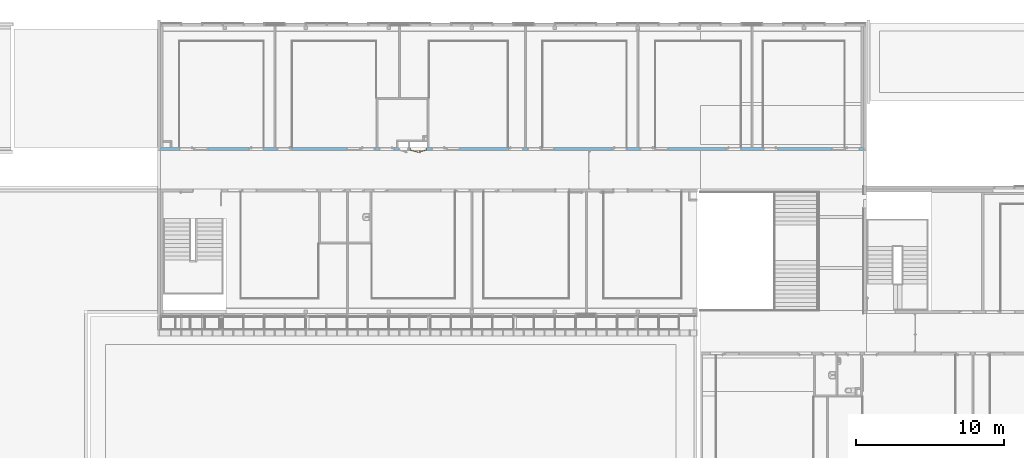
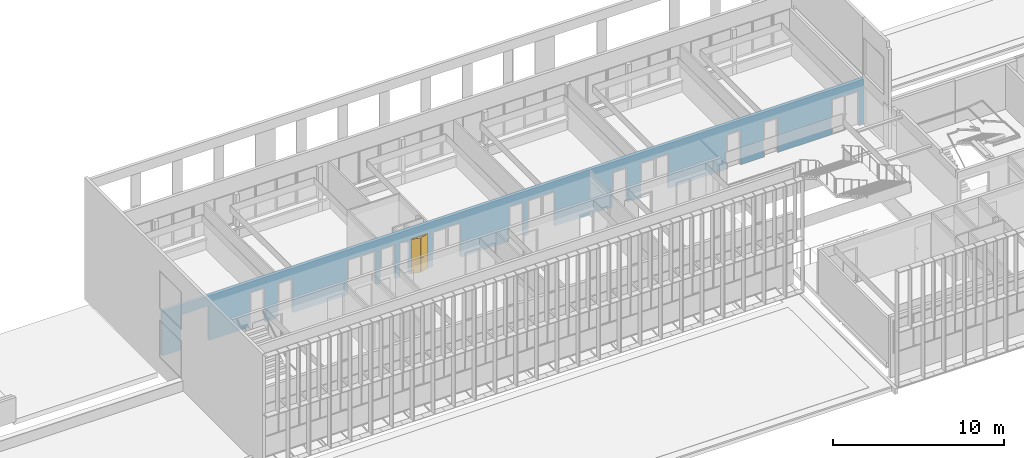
# One storey, part 96 of 106: 1 door, 21 openings, plus 1 element that does not belong to this part.
"""IFC2X3 building model written with IfcOpenShell, lengths in centimetres."""

from ifc_helpers import new_model, entity, si_unit, converted_unit, derived_unit, direction, frame, frame_2d, origin, place, context, subcontext, project, spatial, polyline, rectangle, extrude, clip, bounded_halfspace, faceted_brep, source, transform, mapped, material, material_list, layer, layer_set, layer_usage, type_object, type_shapes, element, fill, save


model = new_model("IFC2X3")

# Units and contexts
model_context = context("Model", 3, precision=0.001, world=origin(), true_north=direction((6.12303176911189e-17, 1.0)))
body_context = subcontext(model_context, "Body", "Model", "MODEL_VIEW")
ifc_project = project(units=[si_unit("LENGTHUNIT", "METRE", prefix="CENTI"), si_unit("AREAUNIT", "SQUARE_METRE"), si_unit("VOLUMEUNIT", "CUBIC_METRE"), converted_unit("PLANEANGLEUNIT", "DEGREE", entity("IfcRatioMeasure", 0.0174532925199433), si_unit("PLANEANGLEUNIT", "RADIAN"), dimensions=[0, 0, 0, 0, 0, 0, 0]), si_unit("MASSUNIT", "GRAM", prefix="KILO"), derived_unit("MASSDENSITYUNIT", [(si_unit("MASSUNIT", "GRAM", prefix="KILO"), 1), (si_unit("LENGTHUNIT", "METRE"), -3)]), si_unit("TIMEUNIT", "SECOND"), si_unit("FREQUENCYUNIT", "HERTZ"), si_unit("THERMODYNAMICTEMPERATUREUNIT", "DEGREE_CELSIUS"), derived_unit("THERMALTRANSMITTANCEUNIT", [(si_unit("MASSUNIT", "GRAM", prefix="KILO"), 1), (si_unit("THERMODYNAMICTEMPERATUREUNIT", "KELVIN"), -1), (si_unit("TIMEUNIT", "SECOND"), -3)]), derived_unit("VOLUMETRICFLOWRATEUNIT", [(si_unit("LENGTHUNIT", "METRE"), 3), (si_unit("TIMEUNIT", "SECOND"), -1)]), si_unit("ELECTRICCURRENTUNIT", "AMPERE"), si_unit("ELECTRICVOLTAGEUNIT", "VOLT"), si_unit("POWERUNIT", "WATT"), si_unit("FORCEUNIT", "NEWTON", prefix="KILO"), si_unit("ILLUMINANCEUNIT", "LUX"), si_unit("LUMINOUSFLUXUNIT", "LUMEN"), si_unit("LUMINOUSINTENSITYUNIT", "CANDELA"), derived_unit("USERDEFINED", [(si_unit("MASSUNIT", "GRAM", prefix="KILO"), -1), (si_unit("LENGTHUNIT", "METRE"), -2), (si_unit("TIMEUNIT", "SECOND"), 3), (si_unit("LUMINOUSFLUXUNIT", "LUMEN"), 1)]), derived_unit("LINEARVELOCITYUNIT", [(si_unit("LENGTHUNIT", "METRE"), 1), (si_unit("TIMEUNIT", "SECOND"), -1)]), si_unit("PRESSUREUNIT", "PASCAL"), derived_unit("USERDEFINED", [(si_unit("LENGTHUNIT", "METRE"), -2), (si_unit("MASSUNIT", "GRAM", prefix="KILO"), 1), (si_unit("TIMEUNIT", "SECOND"), -2)])], contexts=[model_context])

# Site, building, storey
site_placement = place(None, frame((-2781.94577612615, 7442.24238424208, 0.0)))
site = spatial("IfcSite", under=ifc_project, at=site_placement, Name="Default", CompositionType="ELEMENT")
building_placement = place(site_placement, origin())
building = spatial("IfcBuilding", under=site, at=building_placement, CompositionType="ELEMENT")
storey_placement = place(building_placement, frame((0.0, 0.0, 422.0)))
storey = spatial("IfcBuildingStorey", under=building, at=storey_placement, Name="Toiture - Cuisine", CompositionType="ELEMENT", Elevation=421.999999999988)

# Wall, openings, door
ifc_material_1 = material(Name="01 - Maçonnerie")
ifc_layer = layer(ifc_material_1, 20.0)
ifc_layer_set = layer_set([ifc_layer], Name="Mur de base:04 - Structure - béton - 20cm")
ifc_layer_usage = layer_usage(ifc_layer_set, "AXIS2", "NEGATIVE", 10.0)
wall_type = type_object("IfcWallType", Name="Mur de base:04 - Structure - béton - 20cm", PredefinedType="STANDARD", material=ifc_layer_set)
wall_placement = place(building_placement, frame((-8409.49987766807, -820.048500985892, 422.0)))
wall = element("IfcWallStandardCase", 1, at=wall_placement, inside=storey, type_object=wall_type, material=ifc_layer_usage, Name="Mur de base:04 - Structure - béton - 20cm", ObjectType="Mur de base:04 - Structure - béton - 20cm", context=body_context, shape_type="Clipping", body=[
    clip(extrude(rectangle(XDim=4741.49999798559, YDim=20.0, at=frame_2d((2370.74999899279, 2.04281036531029e-14), x_axis=(-1.0, 0.0))), origin(), (0.0, 0.0, 1.0), 321.0), bounded_halfspace(frame((4741.49999798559, -10.0, 321.0), z_axis=(0.0, 0.0, -1.0), x_axis=(0.0, 1.0, 0.0)), True, frame((4741.49999798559, -10.0, 321.0)), polyline([(0.0, 0.0), (0.0, 20.0), (-15.3000000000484, 20.0), (-125.300000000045, 20.0), (-127.300000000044, 20.0), (-675.800000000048, 20.0), (-677.800000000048, 20.0), (-745.800000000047, 20.0), (-755.800000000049, 20.0), (-825.800000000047, 20.0), (-827.800000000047, 20.0), (-1403.80000000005, 20.0), (-1405.80000000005, 20.0), (-1516.49999791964, 20.0), (-1526.49999791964, 20.0), (-1595.78709704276, 20.0), (-1597.78709704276, 20.0), (-2163.80000000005, 20.0), (-2165.80000000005, 20.0), (-2275.80000000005, 20.0), (-2285.80000000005, 20.0), (-2395.80000000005, 20.0), (-2397.80000000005, 20.0), (-2931.80000000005, 20.0), (-2941.80000000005, 20.0), (-3060.80000000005, 20.0), (-3070.80000000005, 20.0), (-3137.80000000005, 20.0), (-3147.80000000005, 20.0), (-3275.80000000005, 20.0), (-3285.80000000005, 20.0), (-3416.49999791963, 20.0), (-3535.80000000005, 20.0), (-3545.80000000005, 20.0), (-3611.80000000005, 20.0), (-3853.80000000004, 20.0), (-3855.80000000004, 20.0), (-3965.80000000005, 20.0), (-3975.80000000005, 20.0), (-4044.30000000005, 20.0), (-4046.30000000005, 20.0), (-4614.19999798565, 20.0), (-4616.19999798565, 20.0), (-4666.19999798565, 20.0), (-4676.19999798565, 20.0), (-4726.19999798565, 20.0), (-4741.49999798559, 20.0), (-4741.49999798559, 0.0), (-1854.0, 0.0), (-1844.0, 0.0), (-1840.0, 0.0), (0.0, 0.0)]))),
])
opening_1_placement = place(wall_placement, frame((1669.50000006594, 10.0, 0.0)))
element("IfcOpeningElement", 2, at=opening_1_placement, cuts=wall, Name="Int. Simple:PP Placard (0.55m x 2.50m):1", ObjectType="Opening", context=body_context, shape_type="SweptSolid", body=[
    extrude(rectangle(XDim=248.500000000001, YDim=61.9999999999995, at=frame_2d((124.250000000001, 30.9999999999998), x_axis=(1.0, 0.0))), frame((0.0, 0.0, 0.0), z_axis=(0.0, -1.0, 0.0), x_axis=(0.0, 0.0, 1.0)), (0.0, 0.0, 1.0), 20.0),
])
opening_2_placement = place(wall_placement, frame((1794.50000006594, 10.0, 0.0)))
opening_2 = element("IfcOpeningElement", 3, at=opening_2_placement, cuts=wall, Name="Int. Double:PP Placard (1.05m x 2.50m):1", ObjectType="Opening", context=body_context, shape_type="SweptSolid", body=[
    extrude(rectangle(XDim=248.500000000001, YDim=112.0, at=frame_2d((124.250000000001, 56.0000000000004), x_axis=(1.0, 0.0))), frame((0.0, 0.0, 0.0), z_axis=(0.0, -1.0, 0.0), x_axis=(0.0, 0.0, 1.0)), (0.0, 0.0, 1.0), 20.0),
])
opening_3_placement = place(wall_placement, frame((126.799999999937, -10.0, 0.0)))
element("IfcOpeningElement", 4, at=opening_3_placement, cuts=wall, Name="Int. Simple:PV (0.93m x 2.50m):1", ObjectType="Opening", context=body_context, shape_type="SweptSolid", body=[
    extrude(rectangle(XDim=248.500000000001, YDim=99.9999999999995, at=frame_2d((124.250000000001, 50.0), x_axis=(1.0, 0.0))), frame((0.0, 0.0, 0.0), z_axis=(0.0, 1.0, 0.0), x_axis=(0.0, 0.0, 1.0)), (0.0, 0.0, 1.0), 20.0),
])
opening_4_placement = place(wall_placement, frame((595.699997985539, -10.0, 0.0)))
element("IfcOpeningElement", 5, at=opening_4_placement, cuts=wall, Name="Int. Simple:PV (0.93m x 2.50m):1", ObjectType="Opening", context=body_context, shape_type="SweptSolid", body=[
    extrude(rectangle(XDim=248.500000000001, YDim=99.9999999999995, at=frame_2d((124.250000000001, 49.9999999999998), x_axis=(1.0, 0.0))), frame((0.0, 0.0, 0.0), z_axis=(0.0, 1.0, 0.0), x_axis=(0.0, 0.0, 1.0)), (0.0, 0.0, 1.0), 20.0),
])
opening_5_placement = place(wall_placement, frame((785.699997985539, -10.0, 0.0)))
element("IfcOpeningElement", 6, at=opening_5_placement, cuts=wall, Name="Int. Simple:PV (0.93m x 2.50m):1", ObjectType="Opening", context=body_context, shape_type="SweptSolid", body=[
    extrude(rectangle(XDim=248.500000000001, YDim=99.9999999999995, at=frame_2d((124.250000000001, 50.0), x_axis=(1.0, 0.0))), frame((0.0, 0.0, 0.0), z_axis=(0.0, 1.0, 0.0), x_axis=(0.0, 0.0, 1.0)), (0.0, 0.0, 1.0), 20.0),
])
opening_6_placement = place(wall_placement, frame((1345.69999798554, -10.0, 0.0)))
element("IfcOpeningElement", 7, at=opening_6_placement, cuts=wall, Name="Int. Simple:PV (0.93m x 2.50m):1", ObjectType="Opening", context=body_context, shape_type="SweptSolid", body=[
    extrude(rectangle(XDim=248.500000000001, YDim=99.9999999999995, at=frame_2d((124.250000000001, 49.9999999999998), x_axis=(1.0, 0.0))), frame((0.0, 0.0, 0.0), z_axis=(0.0, 1.0, 0.0), x_axis=(0.0, 0.0, 1.0)), (0.0, 0.0, 1.0), 20.0),
])
opening_7_placement = place(wall_placement, frame((1475.69999798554, -10.0, 0.0)))
element("IfcOpeningElement", 8, at=opening_7_placement, cuts=wall, Name="Int. Simple:PP simple (0.93m x 2.50m):1", ObjectType="Opening", context=body_context, shape_type="SweptSolid", body=[
    extrude(rectangle(XDim=248.500000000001, YDim=99.9999999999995, at=frame_2d((124.250000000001, 50.0), x_axis=(1.0, 0.0))), frame((0.0, 0.0, 0.0), z_axis=(0.0, 1.0, 0.0), x_axis=(0.0, 0.0, 1.0)), (0.0, 0.0, 1.0), 20.0),
])
opening_8_placement = place(wall_placement, frame((1829.69999798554, -10.0, 0.0)))
element("IfcOpeningElement", 9, at=opening_8_placement, cuts=wall, Name="Int. Simple:PV (0.93m x 2.50m):1", ObjectType="Opening", context=body_context, shape_type="SweptSolid", body=[
    extrude(rectangle(XDim=248.500000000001, YDim=99.9999999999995, at=frame_2d((124.250000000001, 50.0), x_axis=(1.0, 0.0))), frame((0.0, 0.0, 0.0), z_axis=(0.0, 1.0, 0.0), x_axis=(0.0, 0.0, 1.0)), (0.0, 0.0, 1.0), 20.0),
])
opening_9_placement = place(wall_placement, frame((2345.69999798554, -10.0, 0.0)))
element("IfcOpeningElement", 10, at=opening_9_placement, cuts=wall, Name="Int. Simple:PV (0.93m x 2.50m):1", ObjectType="Opening", context=body_context, shape_type="SweptSolid", body=[
    extrude(rectangle(XDim=248.500000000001, YDim=99.9999999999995, at=frame_2d((124.250000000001, 49.9999999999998), x_axis=(1.0, 0.0))), frame((0.0, 0.0, 0.0), z_axis=(0.0, 1.0, 0.0), x_axis=(0.0, 0.0, 1.0)), (0.0, 0.0, 1.0), 20.0),
])
opening_10_placement = place(wall_placement, frame((2475.69999798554, -10.0, 0.0)))
element("IfcOpeningElement", 11, at=opening_10_placement, cuts=wall, Name="Int. Simple:PV (0.93m x 2.50m):1", ObjectType="Opening", context=body_context, shape_type="SweptSolid", body=[
    extrude(rectangle(XDim=248.500000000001, YDim=99.9999999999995, at=frame_2d((124.250000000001, 50.0), x_axis=(1.0, 0.0))), frame((0.0, 0.0, 0.0), z_axis=(0.0, 1.0, 0.0), x_axis=(0.0, 0.0, 1.0)), (0.0, 0.0, 1.0), 20.0),
])
opening_11_placement = place(wall_placement, frame((3045.69999798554, -10.0, 0.0)))
element("IfcOpeningElement", 12, at=opening_11_placement, cuts=wall, Name="Int. Simple:PV (0.93m x 2.50m):1", ObjectType="Opening", context=body_context, shape_type="SweptSolid", body=[
    extrude(rectangle(XDim=248.500000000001, YDim=99.9999999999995, at=frame_2d((124.250000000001, 49.9999999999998), x_axis=(1.0, 0.0))), frame((0.0, 0.0, 0.0), z_axis=(0.0, 1.0, 0.0), x_axis=(0.0, 0.0, 1.0)), (0.0, 0.0, 1.0), 20.0),
])
opening_12_placement = place(wall_placement, frame((3235.69999798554, -10.0, 0.0)))
element("IfcOpeningElement", 13, at=opening_12_placement, cuts=wall, Name="Int. Simple:PV (0.93m x 2.50m):1", ObjectType="Opening", context=body_context, shape_type="SweptSolid", body=[
    extrude(rectangle(XDim=248.500000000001, YDim=99.9999999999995, at=frame_2d((124.250000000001, 50.0), x_axis=(1.0, 0.0))), frame((0.0, 0.0, 0.0), z_axis=(0.0, 1.0, 0.0), x_axis=(0.0, 0.0, 1.0)), (0.0, 0.0, 1.0), 20.0),
])
opening_13_placement = place(wall_placement, frame((3815.69999798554, -10.0, 0.0)))
element("IfcOpeningElement", 14, at=opening_13_placement, cuts=wall, Name="Int. Simple:PV (0.93m x 2.50m):1", ObjectType="Opening", context=body_context, shape_type="SweptSolid", body=[
    extrude(rectangle(XDim=248.500000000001, YDim=99.9999999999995, at=frame_2d((124.250000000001, 49.9999999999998), x_axis=(1.0, 0.0))), frame((0.0, 0.0, 0.0), z_axis=(0.0, 1.0, 0.0), x_axis=(0.0, 0.0, 1.0)), (0.0, 0.0, 1.0), 20.0),
])
opening_14_placement = place(wall_placement, frame((4065.69999798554, -10.0, 0.0)))
element("IfcOpeningElement", 15, at=opening_14_placement, cuts=wall, Name="Int. Simple:PV (0.93m x 2.50m):1", ObjectType="Opening", context=body_context, shape_type="SweptSolid", body=[
    extrude(rectangle(XDim=248.500000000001, YDim=99.9999999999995, at=frame_2d((124.250000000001, 50.0), x_axis=(1.0, 0.0))), frame((0.0, 0.0, 0.0), z_axis=(0.0, 1.0, 0.0), x_axis=(0.0, 0.0, 1.0)), (0.0, 0.0, 1.0), 20.0),
])
opening_15_placement = place(wall_placement, frame((4616.19999798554, -10.0, 0.0)))
element("IfcOpeningElement", 16, at=opening_15_placement, cuts=wall, Name="Int. Simple:PV (0.93m x 2.50m):1", ObjectType="Opening", context=body_context, shape_type="SweptSolid", body=[
    extrude(rectangle(XDim=248.500000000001, YDim=99.9999999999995, at=frame_2d((124.250000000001, 49.9999999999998), x_axis=(1.0, 0.0))), frame((0.0, 0.0, 0.0), z_axis=(0.0, 1.0, 0.0), x_axis=(0.0, 0.0, 1.0)), (0.0, 0.0, 1.0), 20.0),
])
opening_16_placement = place(wall_placement, frame((1255.69999798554, -10.0, 0.0)))
element("IfcOpeningElement", 17, at=opening_16_placement, cuts=wall, Name="châssis intérieur vitré:châssis intérieur vitré (h=270) R+1:1", ObjectType="Opening", context=body_context, shape_type="SweptSolid", body=[
    extrude(rectangle(XDim=250.0, YDim=89.9999999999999, at=frame_2d((125.0, 45.0), x_axis=(1.0, 0.0))), frame((0.0, 0.0, 0.0), z_axis=(0.0, 1.0, 0.0), x_axis=(0.0, 0.0, 1.0)), (0.0, 0.0, 1.0), 20.0),
])
opening_17_placement = place(wall_placement, frame((1929.69999798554, -10.0, 0.0)))
element("IfcOpeningElement", 18, at=opening_17_placement, cuts=wall, Name="châssis intérieur vitré:châssis intérieur vitré (h=270) R+1:1", ObjectType="Opening", context=body_context, shape_type="SweptSolid", body=[
    extrude(rectangle(XDim=250.0, YDim=89.9999999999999, at=frame_2d((125.0, 45.0), x_axis=(1.0, 0.0))), frame((0.0, 0.0, 0.0), z_axis=(0.0, 1.0, 0.0), x_axis=(0.0, 0.0, 1.0)), (0.0, 0.0, 1.0), 20.0),
])
opening_18_placement = place(wall_placement, frame((4526.19999798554, -10.0, 0.0)))
element("IfcOpeningElement", 19, at=opening_18_placement, cuts=wall, Name="châssis intérieur vitré:châssis intérieur vitré (h=270) R+1:1", ObjectType="Opening", context=body_context, shape_type="SweptSolid", body=[
    extrude(rectangle(XDim=250.0, YDim=89.9999999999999, at=frame_2d((125.0, 45.0000000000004), x_axis=(1.0, 0.0))), frame((0.0, 0.0, 0.0), z_axis=(0.0, 1.0, 0.0), x_axis=(0.0, 0.0, 1.0)), (0.0, 0.0, 1.0), 20.0),
])
opening_19_placement = place(wall_placement, frame((3335.69999798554, -10.0, 0.0)))
element("IfcOpeningElement", 20, at=opening_19_placement, cuts=wall, Name="châssis intérieur vitré:châssis intérieur vitré (h=270) R+1:1", ObjectType="Opening", context=body_context, shape_type="SweptSolid", body=[
    extrude(rectangle(XDim=250.0, YDim=89.9999999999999, at=frame_2d((125.0, 45.0000000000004), x_axis=(1.0, 0.0))), frame((0.0, 0.0, 0.0), z_axis=(0.0, 1.0, 0.0), x_axis=(0.0, 0.0, 1.0)), (0.0, 0.0, 1.0), 20.0),
])
opening_20_placement = place(wall_placement, frame((2565.69999798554, -10.0, 0.0)))
element("IfcOpeningElement", 21, at=opening_20_placement, cuts=wall, Name="châssis intérieur vitré:châssis intérieur vitré (h=270) R+1:1", ObjectType="Opening", context=body_context, shape_type="SweptSolid", body=[
    extrude(rectangle(XDim=250.0, YDim=89.9999999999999, at=frame_2d((125.0, 45.0000000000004), x_axis=(1.0, 0.0))), frame((0.0, 0.0, 0.0), z_axis=(0.0, 1.0, 0.0), x_axis=(0.0, 0.0, 1.0)), (0.0, 0.0, 1.0), 20.0),
])
opening_21_placement = place(wall_placement, frame((226.799999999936, -10.0, 0.0)))
element("IfcOpeningElement", 22, at=opening_21_placement, cuts=wall, Name="châssis intérieur vitré:châssis intérieur vitré (h=270) R+1:1", ObjectType="Opening", context=body_context, shape_type="SweptSolid", body=[
    extrude(rectangle(XDim=250.0, YDim=91.4999999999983, at=frame_2d((125.0, 45.7499999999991), x_axis=(1.0, 0.0))), frame((0.0, 0.0, 0.0), z_axis=(0.0, 1.0, 0.0), x_axis=(0.0, 0.0, 1.0)), (0.0, 0.0, 1.0), 20.0),
])
ifc_material_2 = material(Name="Bois - Panneau de porte")
ifc_material_3 = material(Name="Finition Peinture - Blanc satiné")
ifc_material_4 = material(Name="Bois - Cadre de porte")
ifc_material_list_1 = material_list([ifc_material_2, ifc_material_3, ifc_material_4])
ifc_material_list_2 = material_list([ifc_material_2, ifc_material_3, ifc_material_4])
door_style = type_object("IfcDoorStyle", Name="PP Placard (1.05m x 2.50m)", ConstructionType="NOTDEFINED", OperationType="DOUBLE_DOOR_SINGLE_SWING", ParameterTakesPrecedence=False, Sizeable=False, material=ifc_material_list_2)
shared_shape = source(origin(), body_context, "Body", "Brep", [
    faceted_brep([(55.2463820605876, -9.72429656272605, 245.0), (55.2463820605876, -9.72429656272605, 0.0), (4.5352761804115, 3.86370330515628, 0.0), (4.5352761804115, 3.86370330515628, 245.0), (54.2111058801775, -13.5879998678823, 245.0), (3.50000000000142, 0.0, 245.0), (3.50000000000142, 0.0, 0.0), (54.2111058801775, -13.5879998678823, 0.0)], [[[0, 1, 2, 3]], [[4, 5, 6, 7]], [[3, 5, 4, 0]], [[2, 6, 5, 3]], [[1, 7, 6, 2]], [[0, 4, 7, 1]]]),
    faceted_brep([(64.7138586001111, -12.2500993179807, 86.6003983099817), (65.6457102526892, -12.0004104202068, 87.0), (65.6457102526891, -12.0004104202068, 108.0), (64.713858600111, -12.2500993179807, 108.399601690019), (63.713858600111, -12.5180485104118, 108.535898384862), (62.713858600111, -12.785997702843, 108.399601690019), (61.7820069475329, -13.0356866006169, 108.0), (61.782006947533, -13.0356866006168, 87.0), (62.7138586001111, -12.7859977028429, 86.6003983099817), (63.7138586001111, -12.5180485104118, 86.464101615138), (64.5844490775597, -11.7671364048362, 108.399601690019), (65.5163007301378, -11.5174475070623, 108.0), (65.5163007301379, -11.5174475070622, 87.0), (64.5844490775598, -11.7671364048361, 86.6003983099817), (63.5844490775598, -12.0350855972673, 86.464101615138), (62.5844490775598, -12.3030347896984, 86.6003983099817), (61.6525974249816, -12.5527236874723, 87.0), (61.6525974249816, -12.5527236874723, 108.0), (62.5844490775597, -12.3030347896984, 108.399601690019), (63.5844490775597, -12.0350855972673, 108.535898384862)], [[[0, 1, 2, 3, 4, 5, 6, 7, 8, 9]], [[10, 11, 12, 13, 14, 15, 16, 17, 18, 19]], [[16, 15, 8, 7]], [[8, 15, 14, 9]], [[14, 13, 0, 9]], [[13, 12, 1, 0]], [[2, 1, 12, 11]], [[11, 10, 3, 2]], [[3, 10, 19, 4]], [[19, 18, 5, 4]], [[18, 17, 6, 5]], [[7, 6, 17, 16]]]),
    faceted_brep([(63.5491728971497, -7.90343309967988, 86.6003983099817), (64.4810245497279, -7.65374420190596, 87.0), (64.4810245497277, -7.653744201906, 108.0), (63.5491728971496, -7.90343309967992, 108.399601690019), (62.5491728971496, -8.17138229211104, 108.535898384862), (61.5491728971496, -8.43933148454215, 108.399601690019), (60.6173212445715, -8.68902038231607, 108.0), (60.6173212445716, -8.68902038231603, 87.0), (61.5491728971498, -8.43933148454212, 86.6003983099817), (62.5491728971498, -8.171382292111, 86.464101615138), (63.4197633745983, -7.42047018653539, 108.399601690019), (64.3516150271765, -7.17078128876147, 108.0), (64.3516150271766, -7.17078128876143, 87.0), (63.4197633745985, -7.42047018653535, 86.6003983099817), (62.4197633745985, -7.68841937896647, 86.464101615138), (61.4197633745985, -7.95636857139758, 86.6003983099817), (60.4879117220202, -8.20605746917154, 87.0), (60.4879117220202, -8.20605746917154, 108.0), (61.4197633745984, -7.95636857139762, 108.399601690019), (62.4197633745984, -7.68841937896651, 108.535898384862)], [[[0, 1, 2, 3, 4, 5, 6, 7, 8, 9]], [[10, 11, 12, 13, 14, 15, 16, 17, 18, 19]], [[11, 10, 3, 2]], [[3, 10, 19, 4]], [[19, 18, 5, 4]], [[18, 17, 6, 5]], [[7, 6, 17, 16]], [[16, 15, 8, 7]], [[8, 15, 14, 9]], [[14, 13, 0, 9]], [[13, 12, 1, 0]], [[2, 1, 12, 11]]]),
    faceted_brep([(63.5182297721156, -12.5704670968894, 100.778044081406), (63.9094874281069, -12.4656299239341, 100.778044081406), (64.2934140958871, -12.3627570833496, 100.699999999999), (64.293414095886, -12.3627570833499, 99.3000000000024), (63.9094874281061, -12.4656299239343, 99.2219559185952), (63.5182297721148, -12.5704670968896, 99.221955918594), (63.1343031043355, -12.6733399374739, 99.2999999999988), (63.1343031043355, -12.6733399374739, 100.7), (63.849962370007, -15.3442166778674, 100.7), (64.1912777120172, -15.0823162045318, 100.778044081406), (66.1568565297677, -16.2171436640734, 100.778044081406), (66.2140835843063, -15.7824610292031, 100.778044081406), (64.5391103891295, -14.8154148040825, 100.778044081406), (64.88042573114, -14.5535143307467, 100.7), (64.8804257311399, -14.5535143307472, 99.3000000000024), (64.5391103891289, -14.815414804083, 99.2219559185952), (66.2140835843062, -15.7824610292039, 99.2219559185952), (66.1568565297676, -16.2171436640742, 99.221955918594), (64.1912777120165, -15.0823162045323, 99.221955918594), (63.8499623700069, -15.3442166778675, 99.2999999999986), (66.100701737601, -16.6436816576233, 100.7), (66.2702383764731, -15.3559230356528, 100.7), (66.2702383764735, -15.3559230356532, 99.3000000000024), (66.1007017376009, -16.6436816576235, 99.2999999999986), (74.5662138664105, -14.375354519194, 99.2999999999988), (74.463341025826, -13.9914278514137, 99.221955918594), (74.3585038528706, -13.6001701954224, 99.2219559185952), (74.2556310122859, -13.2162435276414, 99.3000000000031), (74.255631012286, -13.2162435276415, 100.7), (74.3585038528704, -13.6001701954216, 100.778044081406), (74.4633410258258, -13.9914278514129, 100.778044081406), (74.5662138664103, -14.375354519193, 100.699999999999), (69.9576906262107, -15.6102045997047, 100.7), (70.3387123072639, -14.8869444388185, 100.78786867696), (70.2629346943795, -14.2860832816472, 100.7), (70.2629346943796, -14.2860832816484, 99.3000000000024), (70.3387122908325, -14.8869444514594, 99.2121313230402), (69.9576909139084, -15.6102045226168, 99.2999999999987)], [[[0, 1, 2, 3, 4, 5, 6, 7]], [[8, 9, 0, 7]], [[9, 10, 11, 12, 1, 0]], [[12, 13, 2, 1]], [[3, 2, 13, 14]], [[14, 15, 4, 3]], [[15, 16, 17, 18, 5, 4]], [[18, 19, 6, 5]], [[7, 6, 19, 8]], [[20, 10, 9, 8]], [[11, 21, 13, 12]], [[14, 13, 21, 22]], [[22, 16, 15, 14]], [[17, 23, 19, 18]], [[8, 19, 23, 20]], [[24, 25, 26, 27, 28, 29, 30, 31]], [[32, 30, 33]], [[31, 30, 32]], [[10, 20, 32]], [[33, 34, 11]], [[21, 11, 34]], [[34, 29, 28]], [[30, 29, 33]], [[29, 34, 33]], [[10, 32, 33]], [[10, 33, 11]], [[22, 21, 34, 28, 27, 35]], [[35, 26, 36]], [[37, 36, 25]], [[22, 35, 16]], [[35, 27, 26]], [[24, 37, 25]], [[23, 17, 37]], [[37, 17, 36]], [[17, 16, 36]], [[16, 35, 36]], [[25, 36, 26]], [[20, 23, 37, 24, 31, 32]]]),
    faceted_brep([(62.2241345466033, -7.74083796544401, 100.778044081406), (61.8402078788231, -7.84371080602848, 100.7), (61.8402078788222, -7.84371080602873, 99.2999999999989), (62.2241345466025, -7.74083796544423, 99.221955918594), (62.6153922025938, -7.63600079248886, 99.2219559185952), (62.9993188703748, -7.53312795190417, 99.3000000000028), (62.9993188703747, -7.5331279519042, 100.7), (62.6153922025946, -7.63600079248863, 100.778044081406), (62.4173589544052, -5.36122397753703, 99.3000000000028), (62.4173589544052, -5.36122397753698, 100.7), (61.9908209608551, -5.30506918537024, 100.778044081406), (62.9675905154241, -3.61325468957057, 100.778044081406), (62.7006891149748, -3.26542201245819, 100.778044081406), (61.5561383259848, -5.24784213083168, 100.778044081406), (61.1296003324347, -5.19168733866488, 100.7), (61.1296003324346, -5.19168733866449, 99.2999999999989), (61.5561383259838, -5.24784213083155, 99.221955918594), (62.7006891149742, -3.26542201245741, 99.221955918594), (62.9675905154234, -3.61325468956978, 99.2219559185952), (61.9908209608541, -5.30506918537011, 99.2219559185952), (63.2294909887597, -3.95457003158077, 99.3000000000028), (63.2294909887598, -3.95457003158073, 100.7), (62.4387886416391, -2.92410667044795, 100.7), (62.4387886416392, -2.92410667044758, 99.2999999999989), (71.2042231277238, -1.81774699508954, 99.3000000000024), (71.1013502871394, -1.43382032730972, 99.2219559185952), (70.996513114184, -1.04256267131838, 99.221955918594), (70.8936402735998, -0.658636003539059, 99.2999999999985), (70.8936402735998, -0.658636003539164, 100.7), (70.9965131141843, -1.04256267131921, 100.778044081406), (71.1013502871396, -1.43382032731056, 100.778044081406), (71.2042231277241, -1.81774699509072, 100.7), (67.2168559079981, -2.88615882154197, 99.3000000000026), (67.2168570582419, -2.88615851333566, 100.7), (66.9820518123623, -2.32790868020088, 100.78786867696), (66.2957775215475, -1.89062961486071, 100.7), (66.2957773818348, -1.8906296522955, 99.2999999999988), (66.9820518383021, -2.32790868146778, 99.2121313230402)], [[[0, 1, 2, 3, 4, 5, 6, 7]], [[6, 5, 8, 9]], [[9, 10, 7, 6]], [[10, 11, 12, 13, 0, 7]], [[13, 14, 1, 0]], [[2, 1, 14, 15]], [[15, 16, 3, 2]], [[16, 17, 18, 19, 4, 3]], [[19, 8, 5, 4]], [[9, 8, 20, 21]], [[21, 11, 10, 9]], [[12, 22, 14, 13]], [[15, 14, 22, 23]], [[23, 17, 16, 15]], [[18, 20, 8, 19]], [[24, 25, 26, 27, 28, 29, 30, 31]], [[21, 20, 32, 24, 31, 33]], [[33, 30, 34]], [[35, 34, 29]], [[21, 33, 11]], [[33, 31, 30]], [[28, 35, 29]], [[22, 12, 35]], [[35, 12, 34]], [[12, 11, 34]], [[11, 33, 34]], [[29, 34, 30]], [[22, 35, 28, 27, 36, 23]], [[36, 26, 37]], [[27, 26, 36]], [[17, 23, 36]], [[37, 32, 18]], [[20, 18, 32]], [[32, 25, 24]], [[26, 25, 37]], [[25, 32, 37]], [[17, 36, 37]], [[17, 37, 18]]]),
    faceted_brep([(56.7536179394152, -9.72429656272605, 245.0), (107.464723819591, 3.86370330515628, 245.0), (107.464723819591, 3.86370330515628, 0.0), (56.7536179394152, -9.72429656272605, 0.0), (57.7888941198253, -13.5879998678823, 245.0), (57.7888941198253, -13.5879998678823, 0.0), (108.500000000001, 0.0, 0.0), (108.500000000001, 0.0, 245.0)], [[[0, 1, 2, 3]], [[4, 5, 6, 7]], [[1, 0, 4, 7]], [[2, 1, 7, 6]], [[3, 2, 6, 5]], [[0, 3, 5, 4]]]),
    faceted_brep([(0.0, 0.0, 0.0), (0.0, 20.0, 0.0), (5.0, 20.0, 0.0), (5.0, 4.0, 0.0), (3.50000000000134, 4.0, 0.0), (3.50000000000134, 0.0, 0.0), (0.0, 0.0, 248.500000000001), (0.0, 20.0, 248.500000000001), (112.0, 20.0, 248.500000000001), (112.0, 20.0, 0.0), (107.0, 20.0, 0.0), (107.0, 20.0, 243.5), (5.0, 20.0, 243.5), (5.0, 4.0, 243.5), (107.0, 4.0, 243.5), (107.0, 4.0, 0.0), (108.499999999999, 4.0, 0.0), (108.499999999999, 4.0, 245.0), (3.50000000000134, 4.0, 245.0), (3.50000000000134, 0.0, 245.0), (108.499999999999, 0.0, 245.0), (108.499999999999, 0.0, 0.0), (112.0, 0.0, 0.0), (112.0, 0.0, 248.500000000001)], [[[0, 1, 2, 3, 4, 5]], [[1, 0, 6, 7]], [[2, 1, 7, 8, 9, 10, 11, 12]], [[3, 2, 12, 13]], [[4, 3, 13, 14, 15, 16, 17, 18]], [[5, 4, 18, 19]], [[0, 5, 19, 20, 21, 22, 23, 6]], [[8, 23, 22, 9]], [[22, 21, 16, 15, 10, 9]], [[14, 11, 10, 15]], [[20, 17, 16, 21]], [[7, 6, 23, 8]], [[13, 12, 11, 14]], [[19, 18, 17, 20]]]),
    faceted_brep([(1.50000000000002, 20.0, 0.0), (-1.49999999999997, 20.0, 0.0), (-1.49999999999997, 20.5000000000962, 0.0), (1.50000000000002, 20.5000000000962, 0.0), (1.50000000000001, 20.0, 247.0), (110.5, 20.0, 247.0), (110.5, 20.0, 0.0), (113.5, 20.0, 0.0), (113.5, 20.0, 250.0), (-1.49999999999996, 20.0, 250.0), (-1.49999999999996, 20.5000000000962, 250.0), (113.5, 20.5000000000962, 250.0), (113.5, 20.5000000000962, 0.0), (110.5, 20.5000000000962, 0.0), (110.5, 20.5000000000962, 247.0), (1.50000000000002, 20.5000000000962, 247.0)], [[[0, 1, 2, 3]], [[1, 0, 4, 5, 6, 7, 8, 9]], [[2, 1, 9, 10]], [[3, 2, 10, 11, 12, 13, 14, 15]], [[0, 3, 15, 4]], [[5, 14, 13, 6]], [[6, 13, 12, 7]], [[11, 8, 7, 12]], [[10, 9, 8, 11]], [[4, 15, 14, 5]]]),
    faceted_brep([(-1.49999999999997, -0.500000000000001, 0.0), (1.50000000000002, -0.500000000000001, 0.0), (1.50000000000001, -0.500000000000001, 247.0), (110.5, -0.500000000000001, 247.0), (110.5, -0.500000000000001, 0.0), (113.5, -0.500000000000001, 0.0), (113.5, -0.500000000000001, 250.0), (-1.49999999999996, -0.500000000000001, 250.0), (-1.49999999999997, 0.0, 0.0), (-1.49999999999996, 0.0, 250.0), (1.50000000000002, 0.0, 0.0), (113.5, 0.0, 250.0), (113.5, 0.0, 0.0), (110.5, 0.0, 0.0), (110.5, 0.0, 247.0), (1.50000000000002, 0.0, 247.0)], [[[0, 1, 2, 3, 4, 5, 6, 7]], [[8, 0, 7, 9]], [[10, 8, 9, 11, 12, 13, 14, 15]], [[1, 10, 15, 2]], [[3, 14, 13, 4]], [[11, 6, 5, 12]], [[9, 7, 6, 11]], [[2, 15, 14, 3]], [[4, 13, 12, 5]], [[1, 0, 8, 10]]]),
])
type_shapes(door_style, [shared_shape])
door_placement = place(opening_2_placement, frame((-112.0, -20.0, 0.0)))
door = element("IfcDoor", 23, at=door_placement, inside=storey, type_object=door_style, material=ifc_material_list_1, Name="Int. Double:PP Placard (1.05m x 2.50m)", ObjectType="Int. Double:PP Placard (1.05m x 2.50m)", OverallHeight=248.500000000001, OverallWidth=112.000000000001, context=body_context, shape_type="MappedRepresentation", body=[
    mapped(shared_shape, transform((0.0, 0.0, 0.0), scale=1.0)),
])
fill(opening_2, door)

save(model, "model.ifc")
